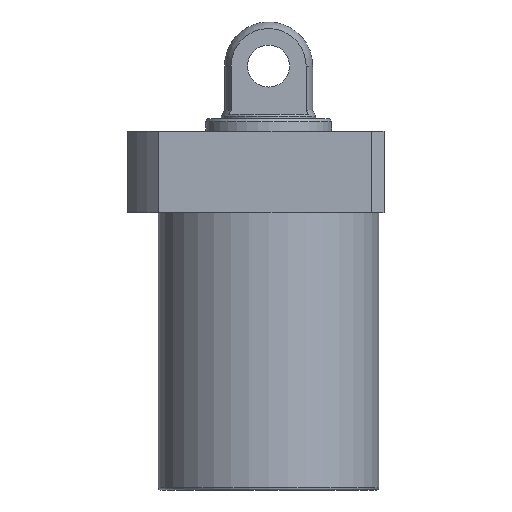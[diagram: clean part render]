
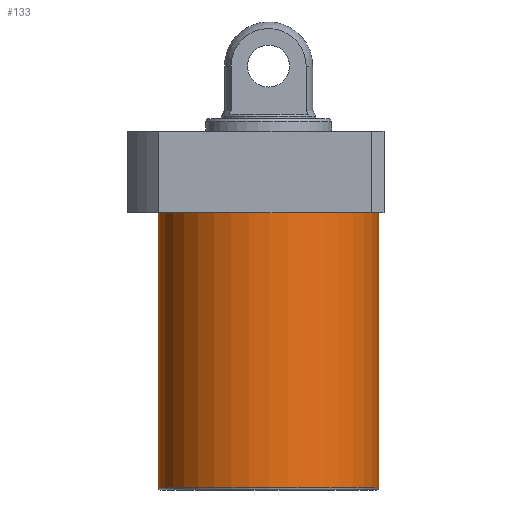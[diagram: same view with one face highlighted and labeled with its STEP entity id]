
A CAD part, front view. The second image highlights one B-rep face of the part: STEP entity #133.
In plain terms, the highlighted cylindrical face has radius 52.5 mm (diameter 105 mm), a partial arc.
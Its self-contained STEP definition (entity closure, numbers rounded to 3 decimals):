
#12 = CARTESIAN_POINT ( 'NONE',  ( -52.5, 0., -151.5 ) ) ;
#103 = VECTOR ( 'NONE', #408, 1000. ) ;
#120 = DIRECTION ( 'NONE',  ( 0., 0., 1. ) ) ;
#133 = ADVANCED_FACE ( 'NONE', ( #565 ), #1601, .T. ) ;
#138 = DIRECTION ( 'NONE',  ( -1., 0., 0. ) ) ;
#243 = CARTESIAN_POINT ( 'NONE',  ( 52.5, 0., -19.5 ) ) ;
#250 = ORIENTED_EDGE ( 'NONE', *, *, #261, .F. ) ;
#261 = EDGE_CURVE ( 'NONE', #374, #477, #837, .T. ) ;
#374 = VERTEX_POINT ( 'NONE', #857 ) ;
#376 = DIRECTION ( 'NONE',  ( 1., 0., 0. ) ) ;
#408 = DIRECTION ( 'NONE',  ( 0., 0., 1. ) ) ;
#477 = VERTEX_POINT ( 'NONE', #638 ) ;
#487 = VERTEX_POINT ( 'NONE', #1782 ) ;
#565 = FACE_OUTER_BOUND ( 'NONE', #1518, .T. ) ;
#596 = VERTEX_POINT ( 'NONE', #243 ) ;
#612 = CARTESIAN_POINT ( 'NONE',  ( 0., 0., -19.5 ) ) ;
#638 = CARTESIAN_POINT ( 'NONE',  ( -52.5, 0., -19.5 ) ) ;
#658 = CARTESIAN_POINT ( 'NONE',  ( 52.5, 0., -151.5 ) ) ;
#691 = CIRCLE ( 'NONE', #1303, 52.5 ) ;
#782 = DIRECTION ( 'NONE',  ( 0., 0., 1. ) ) ;
#823 = CARTESIAN_POINT ( 'NONE',  ( 0., 0., -151.5 ) ) ;
#837 = LINE ( 'NONE', #12, #103 ) ;
#857 = CARTESIAN_POINT ( 'NONE',  ( -52.5, 0., -150.5 ) ) ;
#970 = ORIENTED_EDGE ( 'NONE', *, *, #1062, .T. ) ;
#1062 = EDGE_CURVE ( 'NONE', #596, #477, #1221, .T. ) ;
#1134 = EDGE_CURVE ( 'NONE', #487, #596, #1646, .T. ) ;
#1179 = ORIENTED_EDGE ( 'NONE', *, *, #1286, .T. ) ;
#1191 = AXIS2_PLACEMENT_3D ( 'NONE', #823, #1815, #376 ) ;
#1221 = CIRCLE ( 'NONE', #1475, 52.5 ) ;
#1286 = EDGE_CURVE ( 'NONE', #374, #487, #691, .T. ) ;
#1303 = AXIS2_PLACEMENT_3D ( 'NONE', #1538, #120, #138 ) ;
#1475 = AXIS2_PLACEMENT_3D ( 'NONE', #612, #1595, #1745 ) ;
#1518 = EDGE_LOOP ( 'NONE', ( #250, #1179, #1751, #970 ) ) ;
#1538 = CARTESIAN_POINT ( 'NONE',  ( 0., 0., -150.5 ) ) ;
#1595 = DIRECTION ( 'NONE',  ( 0., 0., -1. ) ) ;
#1601 = CYLINDRICAL_SURFACE ( 'NONE', #1191, 52.5 ) ;
#1642 = VECTOR ( 'NONE', #782, 1000. ) ;
#1646 = LINE ( 'NONE', #658, #1642 ) ;
#1745 = DIRECTION ( 'NONE',  ( 1., 0., 0. ) ) ;
#1751 = ORIENTED_EDGE ( 'NONE', *, *, #1134, .T. ) ;
#1782 = CARTESIAN_POINT ( 'NONE',  ( 52.5, 0., -150.5 ) ) ;
#1815 = DIRECTION ( 'NONE',  ( 0., 0., 1. ) ) ;
